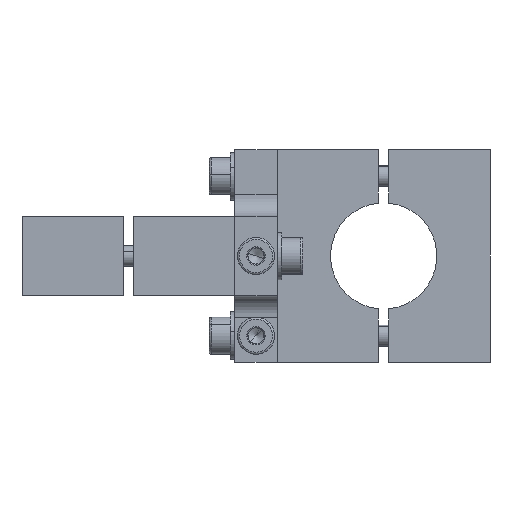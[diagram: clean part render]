
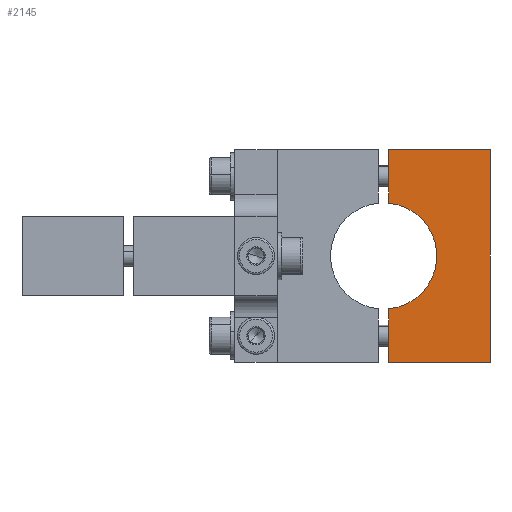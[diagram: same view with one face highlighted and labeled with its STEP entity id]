
A CAD part, left-side view. The second image highlights one B-rep face of the part: STEP entity #2145.
In plain terms, the highlighted planar face has unit normal (-1, 0, 0) as drawn and (0, 0, 1) by its records, which use the part's own axes.
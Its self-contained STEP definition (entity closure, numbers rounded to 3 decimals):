
#1144 = VERTEX_POINT ( 'NONE', #1304 ) ;
#1155 = VERTEX_POINT ( 'NONE', #1274 ) ;
#1160 = VERTEX_POINT ( 'NONE', #1223 ) ;
#1178 = VERTEX_POINT ( 'NONE', #1375 ) ;
#1223 = CARTESIAN_POINT ( 'NONE',  ( -9.95, 1., 7.5 ) ) ;
#1274 = CARTESIAN_POINT ( 'NONE',  ( 20., 1., 7.5 ) ) ;
#1304 = CARTESIAN_POINT ( 'NONE',  ( -20., 1., 7.5 ) ) ;
#1374 = VERTEX_POINT ( 'NONE', #5243 ) ;
#1375 = CARTESIAN_POINT ( 'NONE',  ( 20., 20., 7.5 ) ) ;
#1400 = VERTEX_POINT ( 'NONE', #5514 ) ;
#1474 = FACE_OUTER_BOUND ( 'NONE', #6613, .T. ) ;
#1670 = ORIENTED_EDGE ( 'NONE', *, *, #3208, .T. ) ;
#1732 = ORIENTED_EDGE ( 'NONE', *, *, #3039, .F. ) ;
#1807 = ORIENTED_EDGE ( 'NONE', *, *, #3237, .F. ) ;
#1826 = ORIENTED_EDGE ( 'NONE', *, *, #3184, .F. ) ;
#1841 = ORIENTED_EDGE ( 'NONE', *, *, #3142, .T. ) ;
#1844 = ORIENTED_EDGE ( 'NONE', *, *, #3144, .T. ) ;
#2145 = ADVANCED_FACE ( 'NONE', ( #1474 ), #5366, .T. ) ;
#2707 = AXIS2_PLACEMENT_3D ( 'NONE', #6732, #6702, #6679 ) ;
#2827 = AXIS2_PLACEMENT_3D ( 'NONE', #5762, #6374, #6393 ) ;
#3039 = EDGE_CURVE ( 'NONE', #1374, #1160, #4708, .T. ) ;
#3142 = EDGE_CURVE ( 'NONE', #1400, #1144, #4898, .T. ) ;
#3144 = EDGE_CURVE ( 'NONE', #1178, #1400, #4835, .T. ) ;
#3184 = EDGE_CURVE ( 'NONE', #1160, #1144, #4975, .T. ) ;
#3208 = EDGE_CURVE ( 'NONE', #1155, #1178, #5018, .T. ) ;
#3237 = EDGE_CURVE ( 'NONE', #1155, #1374, #5164, .T. ) ;
#3976 = DIRECTION ( 'NONE',  ( -1., 0., 0. ) ) ;
#3977 = CARTESIAN_POINT ( 'NONE',  ( -20., 20., 7.5 ) ) ;
#3982 = DIRECTION ( 'NONE',  ( 0., -1., 0. ) ) ;
#3988 = CARTESIAN_POINT ( 'NONE',  ( -20., 20., 7.5 ) ) ;
#4137 = CARTESIAN_POINT ( 'NONE',  ( -20., 1., 7.5 ) ) ;
#4138 = DIRECTION ( 'NONE',  ( -1., 0., 0. ) ) ;
#4216 = CARTESIAN_POINT ( 'NONE',  ( 20., 20., 7.5 ) ) ;
#4217 = DIRECTION ( 'NONE',  ( 0., 1., 0. ) ) ;
#4233 = CARTESIAN_POINT ( 'NONE',  ( -20., 1., 7.5 ) ) ;
#4234 = DIRECTION ( 'NONE',  ( -1., 0., 0. ) ) ;
#4708 = CIRCLE ( 'NONE', #2707, 10. ) ;
#4831 = VECTOR ( 'NONE', #3976, 1000. ) ;
#4835 = LINE ( 'NONE', #3977, #4831 ) ;
#4871 = VECTOR ( 'NONE', #3982, 1000. ) ;
#4898 = LINE ( 'NONE', #3988, #4871 ) ;
#4975 = LINE ( 'NONE', #4137, #4997 ) ;
#4997 = VECTOR ( 'NONE', #4138, 1000. ) ;
#5018 = LINE ( 'NONE', #4216, #5040 ) ;
#5040 = VECTOR ( 'NONE', #4217, 1000. ) ;
#5141 = VECTOR ( 'NONE', #4234, 1000. ) ;
#5164 = LINE ( 'NONE', #4233, #5141 ) ;
#5243 = CARTESIAN_POINT ( 'NONE',  ( 9.95, 1., 7.5 ) ) ;
#5366 = PLANE ( 'NONE',  #2827 ) ;
#5514 = CARTESIAN_POINT ( 'NONE',  ( -20., 20., 7.5 ) ) ;
#5762 = CARTESIAN_POINT ( 'NONE',  ( -20., -20., 7.5 ) ) ;
#6374 = DIRECTION ( 'NONE',  ( 0., 0., 1. ) ) ;
#6393 = DIRECTION ( 'NONE',  ( 1., 0., 0. ) ) ;
#6613 = EDGE_LOOP ( 'NONE', ( #1807, #1670, #1844, #1841, #1826, #1732 ) ) ;
#6679 = DIRECTION ( 'NONE',  ( 1., 0., 0. ) ) ;
#6702 = DIRECTION ( 'NONE',  ( 0., 0., 1. ) ) ;
#6732 = CARTESIAN_POINT ( 'NONE',  ( 0., 0., 7.5 ) ) ;
